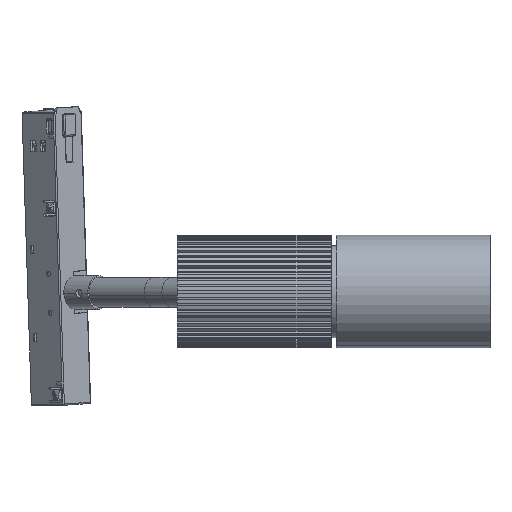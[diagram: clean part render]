
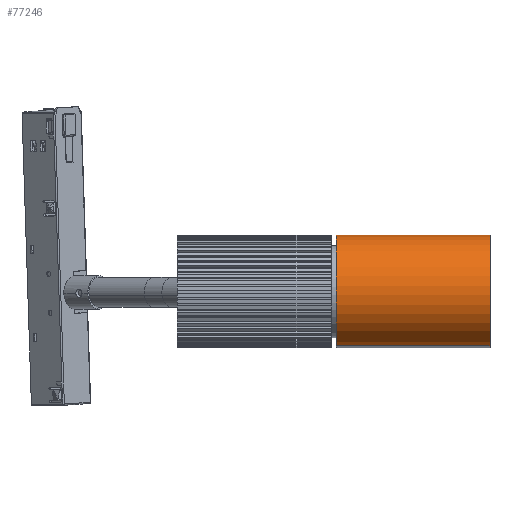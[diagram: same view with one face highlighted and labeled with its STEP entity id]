
A CAD part, left-side view. The second image highlights one B-rep face of the part: STEP entity #77246.
In plain terms, the highlighted cylindrical face has radius 22 mm (diameter 44 mm), a partial arc.
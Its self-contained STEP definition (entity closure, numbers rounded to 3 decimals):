
#2674 = ORIENTED_EDGE ( 'NONE', *, *, #82713, .T. ) ;
#9554 = CIRCLE ( 'NONE', #41061, 22. ) ;
#10405 = AXIS2_PLACEMENT_3D ( 'NONE', #48052, #48351, #43188 ) ;
#10609 = FACE_OUTER_BOUND ( 'NONE', #12940, .T. ) ;
#12940 = EDGE_LOOP ( 'NONE', ( #45921, #43229, #2674, #23571 ) ) ;
#15117 = CIRCLE ( 'NONE', #79348, 22. ) ;
#15702 = EDGE_CURVE ( 'NONE', #16453, #84115, #9554, .T. ) ;
#16453 = VERTEX_POINT ( 'NONE', #31576 ) ;
#21376 = DIRECTION ( 'NONE',  ( 0., 0., 1. ) ) ;
#21709 = EDGE_CURVE ( 'NONE', #16453, #86061, #72609, .T. ) ;
#23571 = ORIENTED_EDGE ( 'NONE', *, *, #28349, .F. ) ;
#28349 = EDGE_CURVE ( 'NONE', #84115, #86267, #75898, .T. ) ;
#31576 = CARTESIAN_POINT ( 'NONE',  ( 0., 60., 22. ) ) ;
#32449 = CARTESIAN_POINT ( 'NONE',  ( 0., 0., -22. ) ) ;
#37399 = DIRECTION ( 'NONE',  ( 0., 0., 1. ) ) ;
#41061 = AXIS2_PLACEMENT_3D ( 'NONE', #61820, #41572, #21376 ) ;
#41572 = DIRECTION ( 'NONE',  ( 0., 1., 0. ) ) ;
#43188 = DIRECTION ( 'NONE',  ( 0., 0., -1. ) ) ;
#43211 = CARTESIAN_POINT ( 'NONE',  ( 0., 0., 22. ) ) ;
#43229 = ORIENTED_EDGE ( 'NONE', *, *, #21709, .T. ) ;
#45921 = ORIENTED_EDGE ( 'NONE', *, *, #15702, .F. ) ;
#47074 = CARTESIAN_POINT ( 'NONE',  ( 0., 60., -22. ) ) ;
#48052 = CARTESIAN_POINT ( 'NONE',  ( 0., 60., 0. ) ) ;
#48351 = DIRECTION ( 'NONE',  ( 0., -1., 0. ) ) ;
#60004 = VECTOR ( 'NONE', #74085, 1000. ) ;
#61820 = CARTESIAN_POINT ( 'NONE',  ( 0., 60., 0. ) ) ;
#69484 = CARTESIAN_POINT ( 'NONE',  ( 0., 60., 22. ) ) ;
#71927 = DIRECTION ( 'NONE',  ( 0., 1., 0. ) ) ;
#72609 = LINE ( 'NONE', #69484, #73636 ) ;
#73636 = VECTOR ( 'NONE', #76273, 1000. ) ;
#74085 = DIRECTION ( 'NONE',  ( 0., -1., 0. ) ) ;
#75898 = LINE ( 'NONE', #47074, #60004 ) ;
#76273 = DIRECTION ( 'NONE',  ( 0., -1., 0. ) ) ;
#77246 = ADVANCED_FACE ( 'NONE', ( #10609 ), #81850, .T. ) ;
#78101 = CARTESIAN_POINT ( 'NONE',  ( 0., 0., 0. ) ) ;
#79348 = AXIS2_PLACEMENT_3D ( 'NONE', #78101, #71927, #37399 ) ;
#81850 = CYLINDRICAL_SURFACE ( 'NONE', #10405, 22. ) ;
#82028 = CARTESIAN_POINT ( 'NONE',  ( 0., 60., -22. ) ) ;
#82713 = EDGE_CURVE ( 'NONE', #86061, #86267, #15117, .T. ) ;
#84115 = VERTEX_POINT ( 'NONE', #82028 ) ;
#86061 = VERTEX_POINT ( 'NONE', #43211 ) ;
#86267 = VERTEX_POINT ( 'NONE', #32449 ) ;
